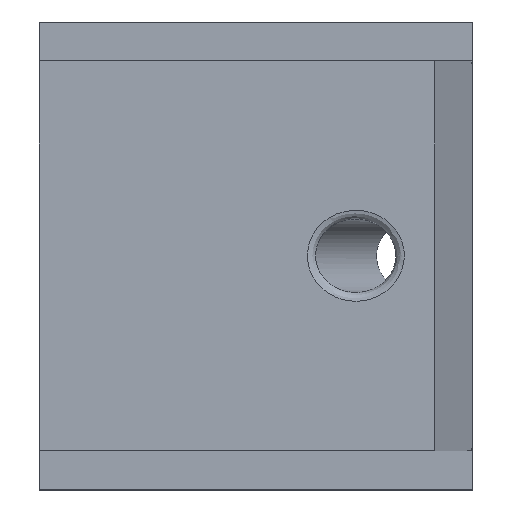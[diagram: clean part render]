
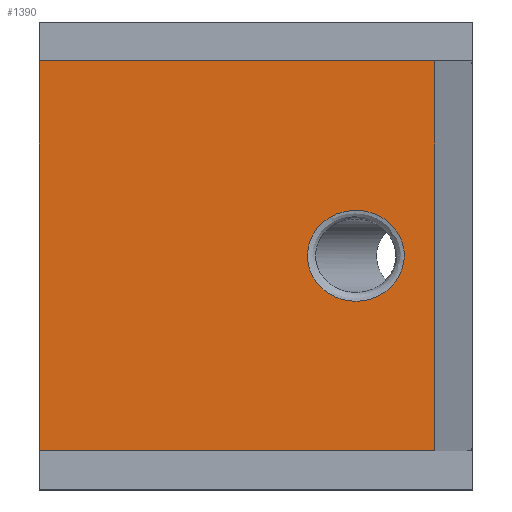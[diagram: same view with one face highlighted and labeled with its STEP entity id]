
A CAD part, top view. The second image highlights one B-rep face of the part: STEP entity #1390.
In plain terms, the highlighted planar face has unit normal (0, 0, 1).
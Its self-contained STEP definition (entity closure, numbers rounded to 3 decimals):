
#219 = DIRECTION ( 'NONE',  ( -1., 0., 0. ) ) ;
#348 = CARTESIAN_POINT ( 'NONE',  ( 0., 22.5, 20. ) ) ;
#452 = VERTEX_POINT ( 'NONE', #4297 ) ;
#544 = VECTOR ( 'NONE', #3483, 1000. ) ;
#703 = EDGE_CURVE ( 'NONE', #452, #8599, #8258, .T. ) ;
#1138 = VERTEX_POINT ( 'NONE', #7308 ) ;
#1390 = ADVANCED_FACE ( 'NONE', ( #6225, #2675 ), #6940, .F. ) ;
#1416 = CARTESIAN_POINT ( 'NONE',  ( 30.937, -10.5, 20. ) ) ;
#1526 = AXIS2_PLACEMENT_3D ( 'NONE', #8778, #1895, #219 ) ;
#1720 = CARTESIAN_POINT ( 'NONE',  ( 0., 22.5, 20. ) ) ;
#1895 = DIRECTION ( 'NONE',  ( 0., 0., -1. ) ) ;
#2320 =( BOUNDED_CURVE ( )  B_SPLINE_CURVE ( 3, ( #4845, #7363, #1416, #3997, #6626, #4050, #10866 ),
 .UNSPECIFIED., .T., .F. ) 
 B_SPLINE_CURVE_WITH_KNOTS ( ( 4, 3, 4 ),
 ( 0., 3.142, 6.283 ),
 .UNSPECIFIED. ) 
 CURVE ( )  GEOMETRIC_REPRESENTATION_ITEM ( )  RATIONAL_B_SPLINE_CURVE ( ( 1., 0.333, 0.333, 1., 0.333, 0.333, 1. ) ) 
 REPRESENTATION_ITEM ( '' )  );
#2395 = EDGE_LOOP ( 'NONE', ( #2905, #7442, #9877, #9268 ) ) ;
#2645 = LINE ( 'NONE', #8804, #544 ) ;
#2675 = FACE_OUTER_BOUND ( 'NONE', #2395, .T. ) ;
#2905 = ORIENTED_EDGE ( 'NONE', *, *, #10275, .T. ) ;
#3351 = ORIENTED_EDGE ( 'NONE', *, *, #6727, .T. ) ;
#3483 = DIRECTION ( 'NONE',  ( 1., 0., 0. ) ) ;
#3768 = DIRECTION ( 'NONE',  ( 1., 0., 0. ) ) ;
#3886 = LINE ( 'NONE', #348, #7895 ) ;
#3997 = CARTESIAN_POINT ( 'NONE',  ( 30.937, 0., 20. ) ) ;
#4050 = CARTESIAN_POINT ( 'NONE',  ( 42.111, 10.5, 20. ) ) ;
#4297 = CARTESIAN_POINT ( 'NONE',  ( 45.632, 22.5, 20. ) ) ;
#4337 = CARTESIAN_POINT ( 'NONE',  ( 0., 22.5, 20. ) ) ;
#4432 = CARTESIAN_POINT ( 'NONE',  ( 45.632, -22.5, 20. ) ) ;
#4707 = VERTEX_POINT ( 'NONE', #1720 ) ;
#4845 = CARTESIAN_POINT ( 'NONE',  ( 42.111, 0., 20. ) ) ;
#4985 = EDGE_CURVE ( 'NONE', #4707, #452, #3886, .T. ) ;
#5713 = EDGE_CURVE ( 'NONE', #4707, #6110, #9480, .T. ) ;
#6023 = DIRECTION ( 'NONE',  ( 0., -1., 0. ) ) ;
#6110 = VERTEX_POINT ( 'NONE', #6776 ) ;
#6203 = EDGE_LOOP ( 'NONE', ( #3351 ) ) ;
#6225 = FACE_BOUND ( 'NONE', #6203, .T. ) ;
#6626 = CARTESIAN_POINT ( 'NONE',  ( 30.937, 10.5, 20. ) ) ;
#6716 = VECTOR ( 'NONE', #8307, 1000. ) ;
#6727 = EDGE_CURVE ( 'NONE', #1138, #1138, #2320, .T. ) ;
#6776 = CARTESIAN_POINT ( 'NONE',  ( 0., -22.5, 20. ) ) ;
#6940 = PLANE ( 'NONE',  #1526 ) ;
#7308 = CARTESIAN_POINT ( 'NONE',  ( 42.111, 0., 20. ) ) ;
#7363 = CARTESIAN_POINT ( 'NONE',  ( 42.111, -10.5, 20. ) ) ;
#7423 = CARTESIAN_POINT ( 'NONE',  ( 45.632, 22.5, 20. ) ) ;
#7442 = ORIENTED_EDGE ( 'NONE', *, *, #703, .F. ) ;
#7895 = VECTOR ( 'NONE', #3768, 1000. ) ;
#8258 = LINE ( 'NONE', #7423, #6716 ) ;
#8307 = DIRECTION ( 'NONE',  ( 0., -1., 0. ) ) ;
#8599 = VERTEX_POINT ( 'NONE', #4432 ) ;
#8778 = CARTESIAN_POINT ( 'NONE',  ( 0., 22.5, 20. ) ) ;
#8804 = CARTESIAN_POINT ( 'NONE',  ( 0., -22.5, 20. ) ) ;
#9268 = ORIENTED_EDGE ( 'NONE', *, *, #5713, .T. ) ;
#9480 = LINE ( 'NONE', #4337, #9860 ) ;
#9860 = VECTOR ( 'NONE', #6023, 1000. ) ;
#9877 = ORIENTED_EDGE ( 'NONE', *, *, #4985, .F. ) ;
#10275 = EDGE_CURVE ( 'NONE', #6110, #8599, #2645, .T. ) ;
#10866 = CARTESIAN_POINT ( 'NONE',  ( 42.111, 0., 20. ) ) ;
